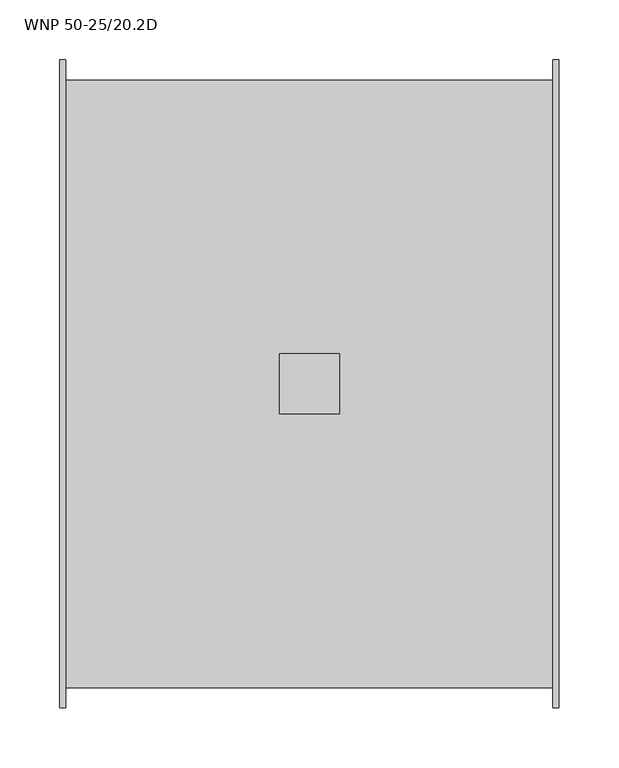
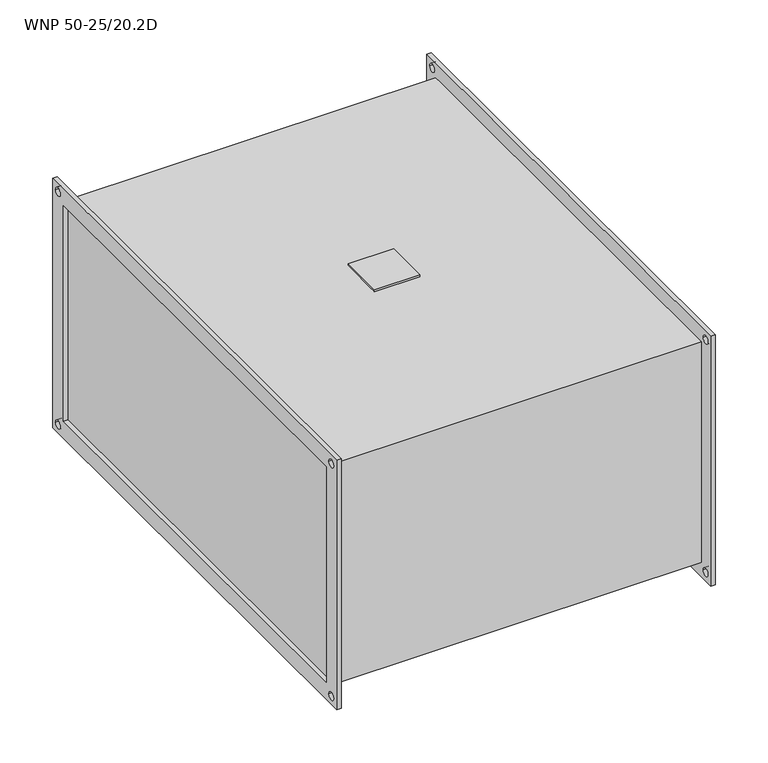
"""IFC4 building model written with IfcOpenShell, lengths in millimetres: proxy geometry, KORF_Вентилятор_WNP : WNP 50-25/20.2D."""

from ifc_helpers import new_model, si_unit, point, frame, frame_2d, origin, place, context, project, spatial, polyline, circle_curve, trimmed, segment, composite_curve, outline, extrude, source, transform, mapped, element, save


def wnp_50_25_20_2d_491e72d1(model_context):
    return source(origin(), model_context, "Body", "SweptSolid", [
        extrude(outline(polyline([(183.0, -25.0), (183.0, 25.0), (233.0, 25.0), (233.0, -25.0), (183.0, -25.0)])), frame((0.0, 0.0, 128.0), z_axis=(0.0, 0.0, 1.0), x_axis=(1.0, 0.0, 0.0)), (0.0, 0.0, 1.0), 2.0),
        extrude(outline(polyline([(-270.0, 145.0), (270.0, 145.0), (270.0, -145.0), (-270.0, -145.0), (-270.0, 145.0)]), holes=[polyline([(-250.0, 125.0), (-250.0, -125.0), (250.0, -125.0), (250.0, 125.0), (-250.0, 125.0)]), composite_curve([segment(trimmed(circle_curve(frame_2d((260.0, 135.0)), 4.5), [point((255.5, 135.0))], [point((264.5, 135.0))], True, "CARTESIAN"), True, "CONTINUOUS"), segment(trimmed(circle_curve(frame_2d((260.0, 135.0)), 4.5), [point((264.5, 135.0))], [point((255.5, 135.0))], True, "CARTESIAN"), True, "CONTINUOUS")], self_intersect=False), composite_curve([segment(trimmed(circle_curve(frame_2d((-260.0, 135.0)), 4.5), [point((-264.5, 135.0))], [point((-255.5, 135.0))], True, "CARTESIAN"), True, "CONTINUOUS"), segment(trimmed(circle_curve(frame_2d((-260.0, 135.0)), 4.5), [point((-255.5, 135.0))], [point((-264.5, 135.0))], True, "CARTESIAN"), True, "CONTINUOUS")], self_intersect=False), composite_curve([segment(trimmed(circle_curve(frame_2d((-260.0, -135.0)), 4.5), [point((-264.5, -135.0))], [point((-255.5, -135.0))], True, "CARTESIAN"), True, "CONTINUOUS"), segment(trimmed(circle_curve(frame_2d((-260.0, -135.0)), 4.5), [point((-255.5, -135.0))], [point((-264.5, -135.0))], True, "CARTESIAN"), True, "CONTINUOUS")], self_intersect=False), composite_curve([segment(trimmed(circle_curve(frame_2d((260.0, -135.0)), 4.5), [point((255.5, -135.0))], [point((264.5, -135.0))], True, "CARTESIAN"), True, "CONTINUOUS"), segment(trimmed(circle_curve(frame_2d((260.0, -135.0)), 4.5), [point((264.5, -135.0))], [point((255.5, -135.0))], True, "CARTESIAN"), True, "CONTINUOUS")], self_intersect=False)]), frame((411.0, 0.0, 0.0), z_axis=(1.0, 0.0, 0.0), x_axis=(0.0, 1.0, 0.0)), (0.0, 0.0, 1.0), 5.0),
        extrude(outline(polyline([(-270.0, 145.0), (270.0, 145.0), (270.0, -145.0), (-270.0, -145.0), (-270.0, 145.0)]), holes=[polyline([(-250.0, 125.0), (-250.0, -125.0), (250.0, -125.0), (250.0, 125.0), (-250.0, 125.0)]), composite_curve([segment(trimmed(circle_curve(frame_2d((260.0, 135.0)), 4.5), [point((255.5, 135.0))], [point((264.5, 135.0))], True, "CARTESIAN"), True, "CONTINUOUS"), segment(trimmed(circle_curve(frame_2d((260.0, 135.0)), 4.5), [point((264.5, 135.0))], [point((255.5, 135.0))], True, "CARTESIAN"), True, "CONTINUOUS")], self_intersect=False), composite_curve([segment(trimmed(circle_curve(frame_2d((-260.0, 135.0)), 4.5), [point((-264.5, 135.0))], [point((-255.5, 135.0))], True, "CARTESIAN"), True, "CONTINUOUS"), segment(trimmed(circle_curve(frame_2d((-260.0, 135.0)), 4.5), [point((-255.5, 135.0))], [point((-264.5, 135.0))], True, "CARTESIAN"), True, "CONTINUOUS")], self_intersect=False), composite_curve([segment(trimmed(circle_curve(frame_2d((-260.0, -135.0)), 4.5), [point((-264.5, -135.0))], [point((-255.5, -135.0))], True, "CARTESIAN"), True, "CONTINUOUS"), segment(trimmed(circle_curve(frame_2d((-260.0, -135.0)), 4.5), [point((-255.5, -135.0))], [point((-264.5, -135.0))], True, "CARTESIAN"), True, "CONTINUOUS")], self_intersect=False), composite_curve([segment(trimmed(circle_curve(frame_2d((260.0, -135.0)), 4.5), [point((255.5, -135.0))], [point((264.5, -135.0))], True, "CARTESIAN"), True, "CONTINUOUS"), segment(trimmed(circle_curve(frame_2d((260.0, -135.0)), 4.5), [point((264.5, -135.0))], [point((255.5, -135.0))], True, "CARTESIAN"), True, "CONTINUOUS")], self_intersect=False)]), frame((0.0, 0.0, 0.0), z_axis=(1.0, 0.0, 0.0), x_axis=(0.0, 1.0, 0.0)), (0.0, 0.0, 1.0), 5.0),
        extrude(outline(polyline([(411.0, 253.0), (411.0, -253.0), (5.0, -253.0), (5.0, 253.0), (411.0, 253.0)])), frame((0.0, 0.0, -128.0), z_axis=(0.0, 0.0, 1.0), x_axis=(1.0, 0.0, 0.0)), (0.0, 0.0, 1.0), 256.0),
    ])


if __name__ == "__main__":
    model = new_model("IFC4")
    model_context = context("Model", 3, world=origin())
    ifc_project = project(units=[si_unit("LENGTHUNIT", "METRE", prefix="MILLI")], contexts=[model_context])
    site = spatial("IfcSite", under=ifc_project)
    building = spatial("IfcBuilding", under=site)
    placement = place(None, origin())
    wnp_50_25_20_2d_shape = wnp_50_25_20_2d_491e72d1(model_context)
    element("IfcBuildingElementProxy", 1, Name="KORF_Вентилятор_WNP : WNP 50-25/20.2D", ObjectType="KORF_Вентилятор_WNP : WNP 50-25/20.2D", at=placement, inside=building, context=model_context, shape_type="MappedRepresentation", body=[
        mapped(wnp_50_25_20_2d_shape, transform((0.0, 0.0, 0.0), x_axis=(1.0, 0.0, 0.0), y_axis=(0.0, 1.0, 0.0), z_axis=(0.0, 0.0, 1.0))),
    ])
    save(model, "model.ifc")
